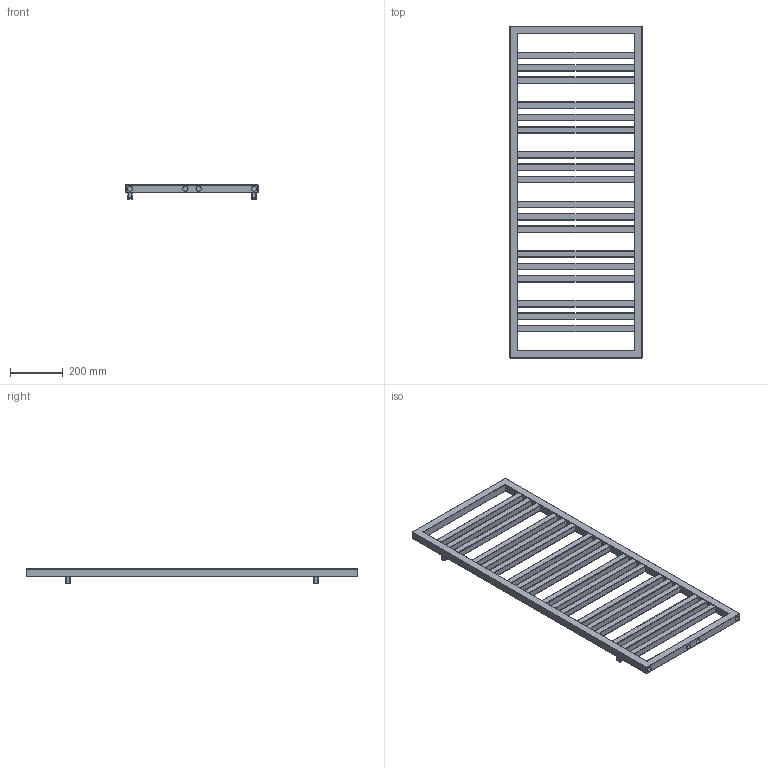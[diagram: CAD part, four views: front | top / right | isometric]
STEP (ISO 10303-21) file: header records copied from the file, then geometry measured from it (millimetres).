
FILE_DESCRIPTION (( 'STEP AP203' ), '1' );
FILE_NAME ('132550.STEP', '2026-03-05T15:29:17', ( '' ), ( '' ), 'SwSTEP 2.0', 'SolidWorks 2025', '' );
FILE_SCHEMA (( 'CONFIG_CONTROL_DESIGN' ));
Length unit declared in the file: millimetre
Products named in the file (2): TQ-STRUTTURA_1257X500; 132550
Assembly tree (1 placements, depth 2):
  132550
    TQ-STRUTTURA_1257X500
Bounding box: 500 x 1257 x 55 mm (x, y, z)
Volume: 4473169 mm3; surface area: 1864214.4 mm2
Topology: 19 solids, 19 shells, 439 faces, 1098 edges, 702 vertices
Faces by surface type: plane 235, cylinder 170, torus 26, sphere 8
Entity records: 13288 total; most frequent: DIRECTION 2344, CARTESIAN_POINT 2235, ORIENTED_EDGE 2180, EDGE_CURVE 1090, AXIS2_PLACEMENT_3D 811, LINE 722, VECTOR 722, VERTEX_POINT 702
